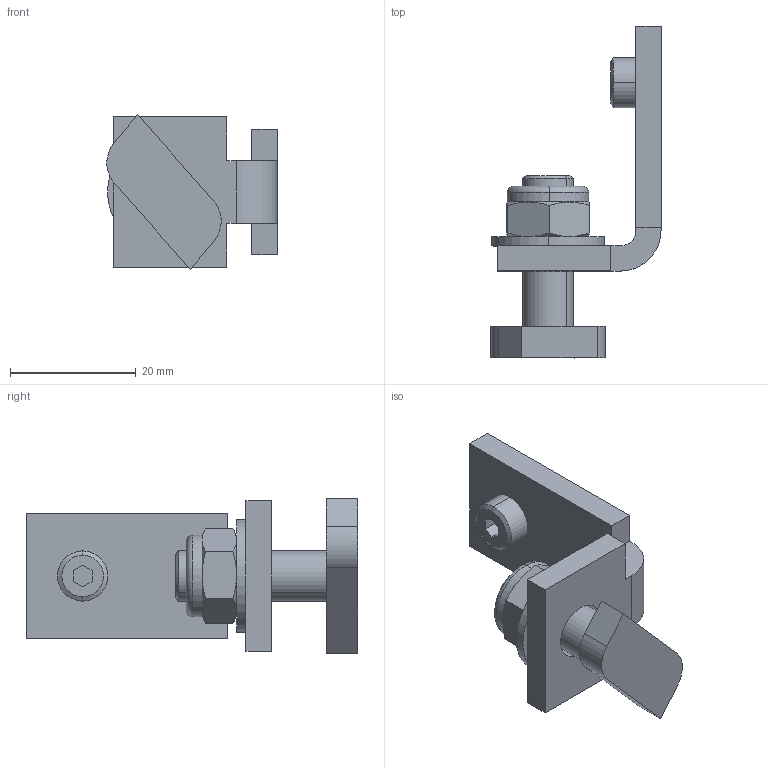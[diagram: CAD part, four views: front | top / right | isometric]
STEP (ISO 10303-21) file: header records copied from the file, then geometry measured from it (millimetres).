
FILE_DESCRIPTION (( 'STEP AP214' ), '1' );
FILE_NAME ('FBRX-20B.STEP', '2012-08-24T07:56:02', ( 'gs' ), ( 'Microsoft' ), 'SwSTEP 2.0', 'SolidWorks 2012', '' );
FILE_SCHEMA (( 'AUTOMOTIVE_DESIGN' ));
Length unit declared in the file: millimetre
Products named in the file (6): Vis HC-M8_8; Rondelle_M8; FATB-24; Ecrou autofrein; FBRX-20B
Assembly tree (5 placements, depth 2):
  FBRX-20B
    FBRX-20B
    Ecrou autofrein
    FATB-24
    Rondelle_M8
    Vis HC-M8_8
Bounding box: 27.09 x 52.81 x 24.61 mm (x, y, z)
Volume: 8057.4 mm3; surface area: 6000.1 mm2
Topology: 5 solids, 5 shells, 96 faces, 217 edges, 135 vertices
Faces by surface type: plane 44, cylinder 26, cone 24, torus 2
Entity records: 3166 total; most frequent: CARTESIAN_POINT 592, DIRECTION 478, ORIENTED_EDGE 434, EDGE_CURVE 217, AXIS2_PLACEMENT_3D 181, VERTEX_POINT 135, LINE 116, VECTOR 116
